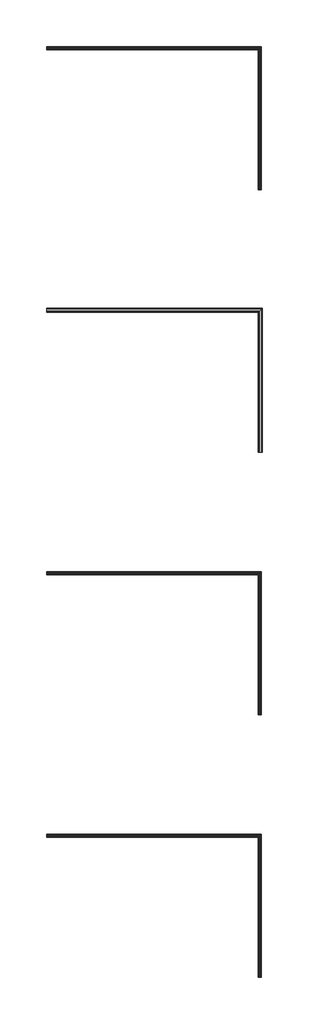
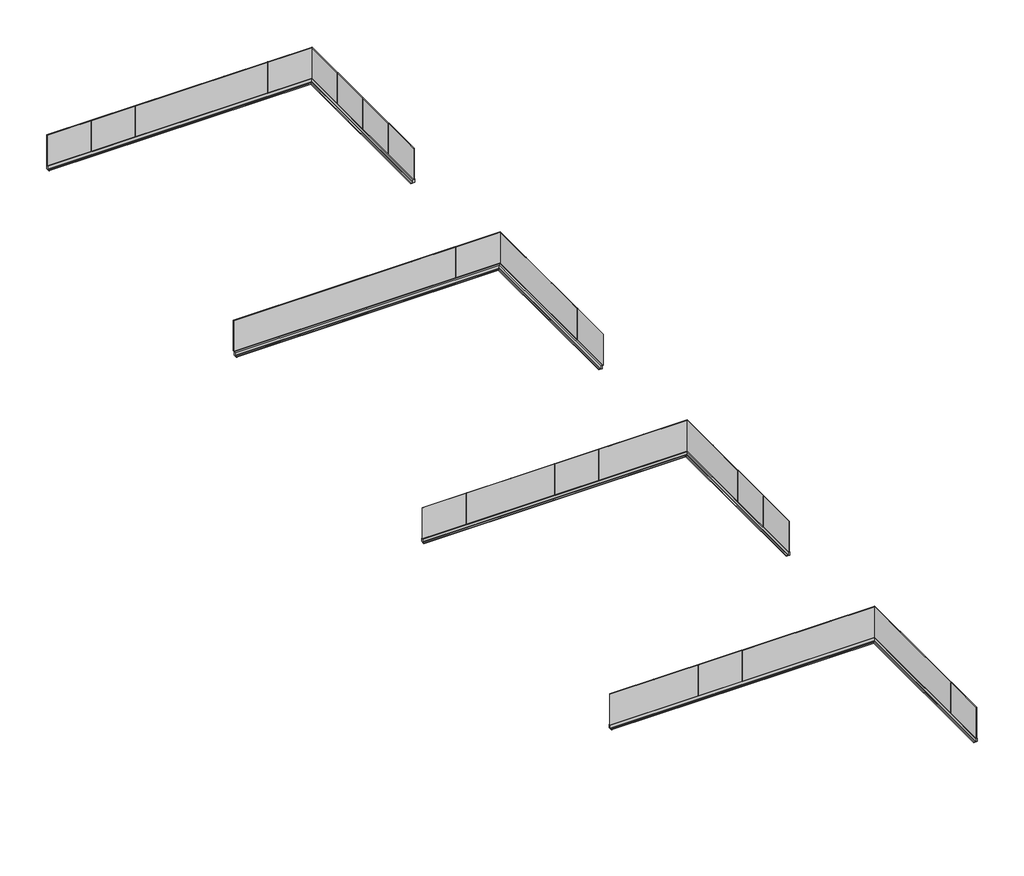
# One storey: 4 railings.
"""IFC4 building model written with IfcOpenShell, lengths in millimetres."""

from ifc_helpers import new_model, si_unit, frame, origin, origin_with_axes, place, context, project, spatial, polyline, circle_curve, ellipse_curve, outline, extrude, faceted_brep, element, save
from ifc_brep_helpers import plane_surface, cylinder_surface, revolved_surface, advanced_brep

model = new_model("IFC4")

# Units and contexts
model_context = context("Model", 3, world=origin())
ifc_project = project(units=[si_unit("LENGTHUNIT", "METRE", prefix="MILLI")], contexts=[model_context])

# Site, building, storey
site = spatial("IfcSite", under=ifc_project)
building = spatial("IfcBuilding", under=site)
storey = spatial("IfcBuildingStorey", under=building, Name="レベル 1", Elevation=0.0)

# Railings
placement = place(None, origin())
element("IfcRailing", 1, ObjectType="バラストレイド Proタイプ 床付用F型 ガラス12mm", at=placement, inside=storey, context=model_context, shape_type="SolidModel", body=[
    faceted_brep([(-7072.0241721, 2579.037995, 1100.0), (-7072.0241721, 2579.037995, 0.0), (-7072.0241721, 2564.037995, 0.0), (-7072.0241721, 2564.037995, 1100.0), (1905.4758279, 2579.037995, 1100.0), (1905.4758279, 2579.037995, 0.0), (1890.4758279, 2564.037995, 0.0), (1890.4758279, 2564.037995, 1100.0), (1905.4758279, -3398.462005, 1100.0), (1890.4758279, -3398.462005, 1100.0), (1890.4758279, -3398.462005, 0.0), (1905.4758279, -3398.462005, 0.0)], [[[0, 1, 2, 3]], [[1, 0, 4, 5]], [[2, 1, 5, 6]], [[3, 2, 6, 7]], [[0, 3, 7, 4]], [[8, 9, 10, 11]], [[5, 4, 8, 11]], [[6, 5, 11, 10]], [[7, 6, 10, 9]], [[4, 7, 9, 8]]]),
    advanced_brep(
    [(-7072.0241721, 2601.537995, -121.0), (-7072.0241721, 2474.537995, -121.0), (-7072.0241721, 2486.537995, -109.0), (-7072.0241721, 2531.537995, -109.0), (-7072.0241721, 2541.537995, -99.0), (-7072.0241721, 2541.537995, 0.0), (-7072.0241721, 2601.537995, 0.0), (1927.9758279, 2601.537995, -121.0), (1800.9758279, 2474.537995, -121.0), (1812.9758279, 2486.537995, -109.0), (1857.9758279, 2531.537995, -109.0), (1867.9758279, 2541.537995, -99.0), (1867.9758279, 2541.537995, 0.0), (1927.9758279, 2601.537995, 0.0), (1927.9758279, -3398.462005, -121.0), (1927.9758279, -3398.462005, 0.0), (1867.9758279, -3398.462005, 0.0), (1867.9758279, -3398.462005, -99.0), (1857.9758279, -3398.462005, -109.0), (1812.9758279, -3398.462005, -109.0), (1800.9758279, -3398.462005, -121.0)],
    [
        (0, 1),
        (1, 2, circle_curve(frame((-7072.0241721, 2486.537995, -121.0), z_axis=(-1.0, 0.0, 0.0), x_axis=(0.0, -1.0, 0.0)), 12.0)),
        (2, 3),
        (3, 4, circle_curve(frame((-7072.0241721, 2531.537995, -99.0), z_axis=(1.0, 0.0, 0.0), x_axis=(0.0, -1.0, 0.0)), 10.0)),
        (4, 5),
        (5, 6),
        (6, 0),
        (0, 7),
        (7, 8),
        (8, 1),
        (8, 9, ellipse_curve(frame((1812.9758279, 2486.537995, -121.0), z_axis=(-0.7071067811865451, 0.7071067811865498, 0.0), x_axis=(-0.70710678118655, -0.7071067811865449, 0.0)), 16.9705627, 12.0)),
        (9, 2),
        (9, 10),
        (10, 3),
        (10, 11, ellipse_curve(frame((1857.9758279, 2531.537995, -99.0), z_axis=(0.7071067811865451, -0.7071067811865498, 0.0), x_axis=(0.70710678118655, 0.7071067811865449, 0.0)), 14.1421356, 10.0)),
        (11, 4),
        (11, 12),
        (12, 5),
        (12, 13),
        (13, 6),
        (13, 7),
        (14, 15),
        (15, 16),
        (16, 17),
        (17, 18, circle_curve(frame((1857.9758279, -3398.462005, -99.0), z_axis=(0.0, 1.0, 0.0), x_axis=(-1.0, 0.0, 0.0)), 10.0)),
        (18, 19),
        (19, 20, circle_curve(frame((1812.9758279, -3398.462005, -121.0), z_axis=(0.0, -1.0, 0.0), x_axis=(-1.0, 0.0, 0.0)), 12.0)),
        (20, 14),
        (7, 14),
        (20, 8),
        (19, 9),
        (18, 10),
        (17, 11),
        (16, 12),
        (15, 13),
    ],
    [
        plane_surface(frame((-7072.0241721, 2601.537995, 0.0), z_axis=(-1.0, 0.0, 0.0), x_axis=(0.0, 1.0, 0.0))),
        plane_surface(frame((-7072.0241721, 2601.537995, -121.0), z_axis=(0.0, 0.0, -1.0), x_axis=(1.0, 0.0, 0.0))),
        cylinder_surface(frame((-7072.0241721, 2486.537995, -121.0), z_axis=(-1.0, 0.0, 0.0), x_axis=(0.0, -1.0, 0.0)), 12.0),
        plane_surface(frame((-7072.0241721, 2486.537995, -109.0), z_axis=(0.0, 0.0, 1.0), x_axis=(1.0, 0.0, 0.0))),
        revolved_surface(polyline([(1867.9758278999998, 2521.537995, -99.0), (-7072.0241721, 2521.537995, -99.0)]), (-7072.0241721, 2531.537995, -99.0), (1.0, 0.0, 0.0)),
        plane_surface(frame((-7072.0241721, 2541.537995, -99.0), z_axis=(0.0, -1.0, 0.0), x_axis=(1.0, 0.0, 0.0))),
        plane_surface(frame((-7072.0241721, 2541.537995, 0.0), z_axis=(0.0, 0.0, 1.0), x_axis=(1.0, 0.0, 0.0))),
        plane_surface(frame((-7072.0241721, 2601.537995, 0.0), z_axis=(0.0, 1.0, 0.0), x_axis=(1.0, 0.0, 0.0))),
        plane_surface(frame((1927.9758279, -3398.462005, 0.0), z_axis=(0.0, -1.0, 0.0), x_axis=(0.0, 0.0, -1.0))),
        plane_surface(frame((1927.9758279, 2601.537995, -121.0), z_axis=(0.0, 0.0, -1.0), x_axis=(0.0, -1.0, 0.0))),
        cylinder_surface(frame((1812.9758279, 2601.537995, -121.0), z_axis=(0.0, 1.0, 0.0), x_axis=(-1.0, 0.0, 0.0)), 12.0),
        plane_surface(frame((1812.9758279, 2486.537995, -109.0), z_axis=(0.0, 0.0, 1.0), x_axis=(0.0, -1.0, 0.0))),
        revolved_surface(polyline([(1847.9758279, -3398.462005, -99.0), (1847.9758279, 2541.537995, -99.0)]), (1857.9758279, 2601.537995, -99.0), (0.0, -1.0, 0.0)),
        plane_surface(frame((1867.9758279, 2541.537995, -99.0), z_axis=(-1.0, 0.0, 0.0), x_axis=(0.0, -1.0, 0.0))),
        plane_surface(frame((1867.9758279, 2541.537995, 0.0), z_axis=(0.0, 0.0, 1.0), x_axis=(0.0, -1.0, 0.0))),
        plane_surface(frame((1927.9758279, 2601.537995, 0.0), z_axis=(1.0, 0.0, 0.0), x_axis=(0.0, -1.0, 0.0))),
    ],
    [
        (0, [[1, 2, 3, 4, 5, 6, 7]]),
        (1, [[-1, 8, 9, 10]]),
        (2, [[-2, -10, 11, 12]]),
        (3, [[-3, -12, 13, 14]]),
        (4, [[-4, -14, 15, 16]]),
        (5, [[-5, -16, 17, 18]]),
        (6, [[-6, -18, 19, 20]]),
        (7, [[-7, -20, 21, -8]]),
        (8, [[22, 23, 24, 25, 26, 27, 28]]),
        (9, [[-9, 29, -28, 30]]),
        (10, [[-11, -30, -27, 31]]),
        (11, [[-13, -31, -26, 32]]),
        (12, [[-15, -32, -25, 33]]),
        (13, [[-17, -33, -24, 34]]),
        (14, [[-19, -34, -23, 35]]),
        (15, [[-21, -35, -22, -29]]),
    ],
),
    extrude(outline(polyline([(1903.9758279, -1895.962005), (1903.9758279, -1915.962005), (1891.9758279, -1915.962005), (1891.9758279, -1895.962005), (1903.9758279, -1895.962005)])), origin_with_axes(), (0.0, 0.0, 1.0), 1100.0),
    extrude(outline(polyline([(1903.9758279, -403.462005), (1903.9758279, -423.462005), (1891.9758279, -423.462005), (1891.9758279, -403.462005), (1903.9758279, -403.462005)])), origin_with_axes(), (0.0, 0.0, 1.0), 1100.0),
    extrude(outline(polyline([(1903.9758279, 1089.037995), (1903.9758279, 1069.037995), (1891.9758279, 1069.037995), (1891.9758279, 1089.037995), (1903.9758279, 1089.037995)])), origin_with_axes(), (0.0, 0.0, 1.0), 1100.0),
    extrude(outline(polyline([(392.9758279, 2577.537995), (412.9758279, 2577.537995), (412.9758279, 2565.537995), (392.9758279, 2565.537995), (392.9758279, 2577.537995)])), origin_with_axes(), (0.0, 0.0, 1.0), 1100.0),
    extrude(outline(polyline([(-1102.0241721, 2577.537995), (-1082.0241721, 2577.537995), (-1082.0241721, 2565.537995), (-1102.0241721, 2565.537995), (-1102.0241721, 2577.537995)])), origin_with_axes(), (0.0, 0.0, 1.0), 1100.0),
    extrude(outline(polyline([(-2597.0241721, 2577.537995), (-2577.0241721, 2577.537995), (-2577.0241721, 2565.537995), (-2597.0241721, 2565.537995), (-2597.0241721, 2577.537995)])), origin_with_axes(), (0.0, 0.0, 1.0), 1100.0),
    extrude(outline(polyline([(-4092.0241721, 2577.537995), (-4072.0241721, 2577.537995), (-4072.0241721, 2565.537995), (-4092.0241721, 2565.537995), (-4092.0241721, 2577.537995)])), origin_with_axes(), (0.0, 0.0, 1.0), 1100.0),
    extrude(outline(polyline([(-5587.0241721, 2577.537995), (-5567.0241721, 2577.537995), (-5567.0241721, 2565.537995), (-5587.0241721, 2565.537995), (-5587.0241721, 2577.537995)])), origin_with_axes(), (0.0, 0.0, 1.0), 1100.0),
    extrude(outline(polyline([(1891.9758279, 2577.537995), (1903.9758279, 2577.537995), (1903.9758279, 2565.537995), (1891.9758279, 2565.537995), (1891.9758279, 2577.537995)])), origin_with_axes(), (0.0, 0.0, 1.0), 1100.0),
])
element("IfcRailing", 2, ObjectType="バラストレイド Proタイプ 床付用F型 ガラス15mm", at=placement, inside=storey, context=model_context, shape_type="SolidModel", body=[
    faceted_brep([(-7072.0241721, -8358.562005, 1100.0), (-7072.0241721, -8358.562005, 0.0), (-7072.0241721, -8373.562005, 0.0), (-7072.0241721, -8373.562005, 1100.0), (1967.8758279, -8358.562005, 1100.0), (1967.8758279, -8358.562005, 0.0), (1952.8758279, -8373.562005, 0.0), (1952.8758279, -8373.562005, 1100.0), (1967.8758279, -14398.462005, 1100.0), (1952.8758279, -14398.462005, 1100.0), (1952.8758279, -14398.462005, 0.0), (1967.8758279, -14398.462005, 0.0)], [[[0, 1, 2, 3]], [[1, 0, 4, 5]], [[2, 1, 5, 6]], [[3, 2, 6, 7]], [[0, 3, 7, 4]], [[8, 9, 10, 11]], [[5, 4, 8, 11]], [[6, 5, 11, 10]], [[7, 6, 10, 9]], [[4, 7, 9, 8]]]),
    advanced_brep(
    [(-7072.0241721, -8398.462005, -121.0), (-7072.0241721, -8525.462005, -121.0), (-7072.0241721, -8513.462005, -109.0), (-7072.0241721, -8468.462005, -109.0), (-7072.0241721, -8458.462005, -99.0), (-7072.0241721, -8458.462005, 0.0), (-7072.0241721, -8398.462005, 0.0), (1927.9758279, -8398.462005, -121.0), (1800.9758279, -8525.462005, -121.0), (1812.9758279, -8513.462005, -109.0), (1857.9758279, -8468.462005, -109.0), (1867.9758279, -8458.462005, -99.0), (1867.9758279, -8458.462005, 0.0), (1927.9758279, -8398.462005, 0.0), (1927.9758279, -14398.462005, -121.0), (1927.9758279, -14398.462005, 0.0), (1867.9758279, -14398.462005, 0.0), (1867.9758279, -14398.462005, -99.0), (1857.9758279, -14398.462005, -109.0), (1812.9758279, -14398.462005, -109.0), (1800.9758279, -14398.462005, -121.0)],
    [
        (0, 1),
        (1, 2, circle_curve(frame((-7072.0241721, -8513.462005, -121.0), z_axis=(-1.0, 0.0, 0.0), x_axis=(0.0, -1.0, 0.0)), 12.0)),
        (2, 3),
        (3, 4, circle_curve(frame((-7072.0241721, -8468.462005, -99.0), z_axis=(1.0, 0.0, 0.0), x_axis=(0.0, -1.0, 0.0)), 10.0)),
        (4, 5),
        (5, 6),
        (6, 0),
        (0, 7),
        (7, 8),
        (8, 1),
        (8, 9, ellipse_curve(frame((1812.9758279, -8513.462005, -121.0), z_axis=(-0.7071067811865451, 0.7071067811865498, 0.0), x_axis=(-0.70710678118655, -0.7071067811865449, 0.0)), 16.9705627, 12.0)),
        (9, 2),
        (9, 10),
        (10, 3),
        (10, 11, ellipse_curve(frame((1857.9758279, -8468.462005, -99.0), z_axis=(0.7071067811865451, -0.7071067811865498, 0.0), x_axis=(0.70710678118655, 0.7071067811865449, 0.0)), 14.1421356, 10.0)),
        (11, 4),
        (11, 12),
        (12, 5),
        (12, 13),
        (13, 6),
        (13, 7),
        (14, 15),
        (15, 16),
        (16, 17),
        (17, 18, circle_curve(frame((1857.9758279, -14398.462005, -99.0), z_axis=(0.0, 1.0, 0.0), x_axis=(-1.0, 0.0, 0.0)), 10.0)),
        (18, 19),
        (19, 20, circle_curve(frame((1812.9758279, -14398.462005, -121.0), z_axis=(0.0, -1.0, 0.0), x_axis=(-1.0, 0.0, 0.0)), 12.0)),
        (20, 14),
        (7, 14),
        (20, 8),
        (19, 9),
        (18, 10),
        (17, 11),
        (16, 12),
        (15, 13),
    ],
    [
        plane_surface(frame((-7072.0241721, -8398.462005, 0.0), z_axis=(-1.0, 0.0, 0.0), x_axis=(0.0, 1.0, 0.0))),
        plane_surface(frame((-7072.0241721, -8398.462005, -121.0), z_axis=(0.0, 0.0, -1.0), x_axis=(1.0, 0.0, 0.0))),
        cylinder_surface(frame((-7072.0241721, -8513.462005, -121.0), z_axis=(-1.0, 0.0, 0.0), x_axis=(0.0, -1.0, 0.0)), 12.0),
        plane_surface(frame((-7072.0241721, -8513.462005, -109.0), z_axis=(0.0, 0.0, 1.0), x_axis=(1.0, 0.0, 0.0))),
        revolved_surface(polyline([(1867.9758278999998, -8478.462005, -99.0), (-7072.0241721, -8478.462005, -99.0)]), (-7072.0241721, -8468.462005, -99.0), (1.0, 0.0, 0.0)),
        plane_surface(frame((-7072.0241721, -8458.462005, -99.0), z_axis=(0.0, -1.0, 0.0), x_axis=(1.0, 0.0, 0.0))),
        plane_surface(frame((-7072.0241721, -8458.462005, 0.0), z_axis=(0.0, 0.0, 1.0), x_axis=(1.0, 0.0, 0.0))),
        plane_surface(frame((-7072.0241721, -8398.462005, 0.0), z_axis=(0.0, 1.0, 0.0), x_axis=(1.0, 0.0, 0.0))),
        plane_surface(frame((1927.9758279, -14398.462005, 0.0), z_axis=(0.0, -1.0, 0.0), x_axis=(0.0, 0.0, -1.0))),
        plane_surface(frame((1927.9758279, -8398.462005, -121.0), z_axis=(0.0, 0.0, -1.0), x_axis=(0.0, -1.0, 0.0))),
        cylinder_surface(frame((1812.9758279, -8398.462005, -121.0), z_axis=(0.0, 1.0, 0.0), x_axis=(-1.0, 0.0, 0.0)), 12.0),
        plane_surface(frame((1812.9758279, -8513.462005, -109.0), z_axis=(0.0, 0.0, 1.0), x_axis=(0.0, -1.0, 0.0))),
        revolved_surface(polyline([(1847.9758279, -14398.462005, -99.0), (1847.9758279, -8458.462005, -99.0)]), (1857.9758279, -8398.462005, -99.0), (0.0, -1.0, 0.0)),
        plane_surface(frame((1867.9758279, -8458.462005, -99.0), z_axis=(-1.0, 0.0, 0.0), x_axis=(0.0, -1.0, 0.0))),
        plane_surface(frame((1867.9758279, -8458.462005, 0.0), z_axis=(0.0, 0.0, 1.0), x_axis=(0.0, -1.0, 0.0))),
        plane_surface(frame((1927.9758279, -8398.462005, 0.0), z_axis=(1.0, 0.0, 0.0), x_axis=(0.0, -1.0, 0.0))),
    ],
    [
        (0, [[1, 2, 3, 4, 5, 6, 7]]),
        (1, [[-1, 8, 9, 10]]),
        (2, [[-2, -10, 11, 12]]),
        (3, [[-3, -12, 13, 14]]),
        (4, [[-4, -14, 15, 16]]),
        (5, [[-5, -16, 17, 18]]),
        (6, [[-6, -18, 19, 20]]),
        (7, [[-7, -20, 21, -8]]),
        (8, [[22, 23, 24, 25, 26, 27, 28]]),
        (9, [[-9, 29, -28, 30]]),
        (10, [[-11, -30, -27, 31]]),
        (11, [[-13, -31, -26, 32]]),
        (12, [[-15, -32, -25, 33]]),
        (13, [[-17, -33, -24, 34]]),
        (14, [[-19, -34, -23, 35]]),
        (15, [[-21, -35, -22, -29]]),
    ],
),
    extrude(outline(polyline([(1967.8758279, -12880.362005), (1967.8758279, -12900.362005), (1952.8758279, -12900.362005), (1952.8758279, -12880.362005), (1967.8758279, -12880.362005)])), origin_with_axes(), (0.0, 0.0, 1.0), 1100.0),
    extrude(outline(polyline([(1967.8758279, -11372.262005), (1967.8758279, -11392.262005), (1952.8758279, -11392.262005), (1952.8758279, -11372.262005), (1967.8758279, -11372.262005)])), origin_with_axes(), (0.0, 0.0, 1.0), 1100.0),
    extrude(outline(polyline([(1967.8758279, -9864.162005), (1967.8758279, -9884.162005), (1952.8758279, -9884.162005), (1952.8758279, -9864.162005), (1967.8758279, -9864.162005)])), origin_with_axes(), (0.0, 0.0, 1.0), 1100.0),
    extrude(outline(polyline([(444.9758279, -8358.562005), (464.9758279, -8358.562005), (464.9758279, -8373.562005), (444.9758279, -8373.562005), (444.9758279, -8358.562005)])), origin_with_axes(), (0.0, 0.0, 1.0), 1100.0),
    extrude(outline(polyline([(-1060.4241721, -8358.562005), (-1040.4241721, -8358.562005), (-1040.4241721, -8373.562005), (-1060.4241721, -8373.562005), (-1060.4241721, -8358.562005)])), origin_with_axes(), (0.0, 0.0, 1.0), 1100.0),
    extrude(outline(polyline([(-2565.8241721, -8358.562005), (-2545.8241721, -8358.562005), (-2545.8241721, -8373.562005), (-2565.8241721, -8373.562005), (-2565.8241721, -8358.562005)])), origin_with_axes(), (0.0, 0.0, 1.0), 1100.0),
    extrude(outline(polyline([(-4071.2241721, -8358.562005), (-4051.2241721, -8358.562005), (-4051.2241721, -8373.562005), (-4071.2241721, -8373.562005), (-4071.2241721, -8358.562005)])), origin_with_axes(), (0.0, 0.0, 1.0), 1100.0),
    extrude(outline(polyline([(-5576.6241721, -8358.562005), (-5556.6241721, -8358.562005), (-5556.6241721, -8373.562005), (-5576.6241721, -8373.562005), (-5576.6241721, -8358.562005)])), origin_with_axes(), (0.0, 0.0, 1.0), 1100.0),
    extrude(outline(polyline([(1952.8758279, -8358.562005), (1967.8758279, -8358.562005), (1967.8758279, -8373.562005), (1952.8758279, -8373.562005), (1952.8758279, -8358.562005)])), origin_with_axes(), (0.0, 0.0, 1.0), 1100.0),
])
element("IfcRailing", 3, ObjectType="バラストレイド Proタイプ 床付用F型 ガラス 8+8mm", at=placement, inside=storey, context=model_context, shape_type="SolidModel", body=[
    faceted_brep([(-7072.0241721, -19419.712005, 1100.0), (-7072.0241721, -19419.712005, 0.0), (-7072.0241721, -19437.212005, 0.0), (-7072.0241721, -19437.212005, 1100.0), (1906.7258279, -19419.712005, 1100.0), (1906.7258279, -19419.712005, 0.0), (1889.2258279, -19437.212005, 0.0), (1889.2258279, -19437.212005, 1100.0), (1906.7258279, -25398.462005, 1100.0), (1889.2258279, -25398.462005, 1100.0), (1889.2258279, -25398.462005, 0.0), (1906.7258279, -25398.462005, 0.0)], [[[0, 1, 2, 3]], [[1, 0, 4, 5]], [[2, 1, 5, 6]], [[3, 2, 6, 7]], [[0, 3, 7, 4]], [[8, 9, 10, 11]], [[5, 4, 8, 11]], [[6, 5, 11, 10]], [[7, 6, 10, 9]], [[4, 7, 9, 8]]]),
    advanced_brep(
    [(-7072.0241721, -19398.462005, -121.0), (-7072.0241721, -19525.462005, -121.0), (-7072.0241721, -19513.462005, -109.0), (-7072.0241721, -19468.462005, -109.0), (-7072.0241721, -19458.462005, -99.0), (-7072.0241721, -19458.462005, 0.0), (-7072.0241721, -19398.462005, 0.0), (1927.9758279, -19398.462005, -121.0), (1800.9758279, -19525.462005, -121.0), (1812.9758279, -19513.462005, -109.0), (1857.9758279, -19468.462005, -109.0), (1867.9758279, -19458.462005, -99.0), (1867.9758279, -19458.462005, 0.0), (1927.9758279, -19398.462005, 0.0), (1927.9758279, -25398.462005, -121.0), (1927.9758279, -25398.462005, 0.0), (1867.9758279, -25398.462005, 0.0), (1867.9758279, -25398.462005, -99.0), (1857.9758279, -25398.462005, -109.0), (1812.9758279, -25398.462005, -109.0), (1800.9758279, -25398.462005, -121.0)],
    [
        (0, 1),
        (1, 2, circle_curve(frame((-7072.0241721, -19513.462005, -121.0), z_axis=(-1.0, 0.0, 0.0), x_axis=(0.0, -1.0, 0.0)), 12.0)),
        (2, 3),
        (3, 4, circle_curve(frame((-7072.0241721, -19468.462005, -99.0), z_axis=(1.0, 0.0, 0.0), x_axis=(0.0, -1.0, 0.0)), 10.0)),
        (4, 5),
        (5, 6),
        (6, 0),
        (0, 7),
        (7, 8),
        (8, 1),
        (8, 9, ellipse_curve(frame((1812.9758279, -19513.462005, -121.0), z_axis=(-0.7071067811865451, 0.7071067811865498, 0.0), x_axis=(-0.70710678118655, -0.7071067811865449, 0.0)), 16.9705627, 12.0)),
        (9, 2),
        (9, 10),
        (10, 3),
        (10, 11, ellipse_curve(frame((1857.9758279, -19468.462005, -99.0), z_axis=(0.7071067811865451, -0.7071067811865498, 0.0), x_axis=(0.70710678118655, 0.7071067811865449, 0.0)), 14.1421356, 10.0)),
        (11, 4),
        (11, 12),
        (12, 5),
        (12, 13),
        (13, 6),
        (13, 7),
        (14, 15),
        (15, 16),
        (16, 17),
        (17, 18, circle_curve(frame((1857.9758279, -25398.462005, -99.0), z_axis=(0.0, 1.0, 0.0), x_axis=(-1.0, 0.0, 0.0)), 10.0)),
        (18, 19),
        (19, 20, circle_curve(frame((1812.9758279, -25398.462005, -121.0), z_axis=(0.0, -1.0, 0.0), x_axis=(-1.0, 0.0, 0.0)), 12.0)),
        (20, 14),
        (7, 14),
        (20, 8),
        (19, 9),
        (18, 10),
        (17, 11),
        (16, 12),
        (15, 13),
    ],
    [
        plane_surface(frame((-7072.0241721, -19398.462005, 0.0), z_axis=(-1.0, 0.0, 0.0), x_axis=(0.0, 1.0, 0.0))),
        plane_surface(frame((-7072.0241721, -19398.462005, -121.0), z_axis=(0.0, 0.0, -1.0), x_axis=(1.0, 0.0, 0.0))),
        cylinder_surface(frame((-7072.0241721, -19513.462005, -121.0), z_axis=(-1.0, 0.0, 0.0), x_axis=(0.0, -1.0, 0.0)), 12.0),
        plane_surface(frame((-7072.0241721, -19513.462005, -109.0), z_axis=(0.0, 0.0, 1.0), x_axis=(1.0, 0.0, 0.0))),
        revolved_surface(polyline([(1867.9758278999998, -19478.462005, -99.0), (-7072.0241721, -19478.462005, -99.0)]), (-7072.0241721, -19468.462005, -99.0), (1.0, 0.0, 0.0)),
        plane_surface(frame((-7072.0241721, -19458.462005, -99.0), z_axis=(0.0, -1.0, 0.0), x_axis=(1.0, 0.0, 0.0))),
        plane_surface(frame((-7072.0241721, -19458.462005, 0.0), z_axis=(0.0, 0.0, 1.0), x_axis=(1.0, 0.0, 0.0))),
        plane_surface(frame((-7072.0241721, -19398.462005, 0.0), z_axis=(0.0, 1.0, 0.0), x_axis=(1.0, 0.0, 0.0))),
        plane_surface(frame((1927.9758279, -25398.462005, 0.0), z_axis=(0.0, -1.0, 0.0), x_axis=(0.0, 0.0, -1.0))),
        plane_surface(frame((1927.9758279, -19398.462005, -121.0), z_axis=(0.0, 0.0, -1.0), x_axis=(0.0, -1.0, 0.0))),
        cylinder_surface(frame((1812.9758279, -19398.462005, -121.0), z_axis=(0.0, 1.0, 0.0), x_axis=(-1.0, 0.0, 0.0)), 12.0),
        plane_surface(frame((1812.9758279, -19513.462005, -109.0), z_axis=(0.0, 0.0, 1.0), x_axis=(0.0, -1.0, 0.0))),
        revolved_surface(polyline([(1847.9758279, -25398.462005, -99.0), (1847.9758279, -19458.462005, -99.0)]), (1857.9758279, -19398.462005, -99.0), (0.0, -1.0, 0.0)),
        plane_surface(frame((1867.9758279, -19458.462005, -99.0), z_axis=(-1.0, 0.0, 0.0), x_axis=(0.0, -1.0, 0.0))),
        plane_surface(frame((1867.9758279, -19458.462005, 0.0), z_axis=(0.0, 0.0, 1.0), x_axis=(0.0, -1.0, 0.0))),
        plane_surface(frame((1927.9758279, -19398.462005, 0.0), z_axis=(1.0, 0.0, 0.0), x_axis=(0.0, -1.0, 0.0))),
    ],
    [
        (0, [[1, 2, 3, 4, 5, 6, 7]]),
        (1, [[-1, 8, 9, 10]]),
        (2, [[-2, -10, 11, 12]]),
        (3, [[-3, -12, 13, 14]]),
        (4, [[-4, -14, 15, 16]]),
        (5, [[-5, -16, 17, 18]]),
        (6, [[-6, -18, 19, 20]]),
        (7, [[-7, -20, 21, -8]]),
        (8, [[22, 23, 24, 25, 26, 27, 28]]),
        (9, [[-9, 29, -28, 30]]),
        (10, [[-11, -30, -27, 31]]),
        (11, [[-13, -31, -26, 32]]),
        (12, [[-15, -32, -25, 33]]),
        (13, [[-17, -33, -24, 34]]),
        (14, [[-19, -34, -23, 35]]),
        (15, [[-21, -35, -22, -29]]),
    ],
),
    extrude(outline(polyline([(1906.7258279, -23895.962005), (1906.7258279, -23915.962005), (1889.2258279, -23915.962005), (1889.2258279, -23895.962005), (1906.7258279, -23895.962005)])), origin_with_axes(), (0.0, 0.0, 1.0), 1100.0),
    extrude(outline(polyline([(1906.7258279, -22403.462005), (1906.7258279, -22423.462005), (1889.2258279, -22423.462005), (1889.2258279, -22403.462005), (1906.7258279, -22403.462005)])), origin_with_axes(), (0.0, 0.0, 1.0), 1100.0),
    extrude(outline(polyline([(1906.7258279, -20910.962005), (1906.7258279, -20930.962005), (1889.2258279, -20930.962005), (1889.2258279, -20910.962005), (1906.7258279, -20910.962005)])), origin_with_axes(), (0.0, 0.0, 1.0), 1100.0),
    extrude(outline(polyline([(392.9758279, -19419.712005), (412.9758279, -19419.712005), (412.9758279, -19437.212005), (392.9758279, -19437.212005), (392.9758279, -19419.712005)])), origin_with_axes(), (0.0, 0.0, 1.0), 1100.0),
    extrude(outline(polyline([(-1102.0241721, -19419.712005), (-1082.0241721, -19419.712005), (-1082.0241721, -19437.212005), (-1102.0241721, -19437.212005), (-1102.0241721, -19419.712005)])), origin_with_axes(), (0.0, 0.0, 1.0), 1100.0),
    extrude(outline(polyline([(-2597.0241721, -19419.712005), (-2577.0241721, -19419.712005), (-2577.0241721, -19437.212005), (-2597.0241721, -19437.212005), (-2597.0241721, -19419.712005)])), origin_with_axes(), (0.0, 0.0, 1.0), 1100.0),
    extrude(outline(polyline([(-4092.0241721, -19419.712005), (-4072.0241721, -19419.712005), (-4072.0241721, -19437.212005), (-4092.0241721, -19437.212005), (-4092.0241721, -19419.712005)])), origin_with_axes(), (0.0, 0.0, 1.0), 1100.0),
    extrude(outline(polyline([(-5587.0241721, -19419.712005), (-5567.0241721, -19419.712005), (-5567.0241721, -19437.212005), (-5587.0241721, -19437.212005), (-5587.0241721, -19419.712005)])), origin_with_axes(), (0.0, 0.0, 1.0), 1100.0),
    extrude(outline(polyline([(1889.2258279, -19419.712005), (1906.7258279, -19419.712005), (1906.7258279, -19437.212005), (1889.2258279, -19437.212005), (1889.2258279, -19419.712005)])), origin_with_axes(), (0.0, 0.0, 1.0), 1100.0),
])
element("IfcRailing", 4, ObjectType="バラストレイド Proタイプ 床付用F型 ガラス 10+10mm", at=placement, inside=storey, context=model_context, shape_type="SolidModel", body=[
    faceted_brep([(-7072.0241721, -30417.712005, 1100.0), (-7072.0241721, -30417.712005, 0.0), (-7072.0241721, -30439.212005, 0.0), (-7072.0241721, -30439.212005, 1100.0), (1908.7258279, -30417.712005, 1100.0), (1908.7258279, -30417.712005, 0.0), (1887.2258279, -30439.212005, 0.0), (1887.2258279, -30439.212005, 1100.0), (1908.7258279, -36398.462005, 1100.0), (1887.2258279, -36398.462005, 1100.0), (1887.2258279, -36398.462005, 0.0), (1908.7258279, -36398.462005, 0.0)], [[[0, 1, 2, 3]], [[1, 0, 4, 5]], [[2, 1, 5, 6]], [[3, 2, 6, 7]], [[0, 3, 7, 4]], [[8, 9, 10, 11]], [[5, 4, 8, 11]], [[6, 5, 11, 10]], [[7, 6, 10, 9]], [[4, 7, 9, 8]]]),
    advanced_brep(
    [(-7072.0241721, -30398.462005, -121.0), (-7072.0241721, -30525.462005, -121.0), (-7072.0241721, -30513.462005, -109.0), (-7072.0241721, -30468.462005, -109.0), (-7072.0241721, -30458.462005, -99.0), (-7072.0241721, -30458.462005, 0.0), (-7072.0241721, -30398.462005, 0.0), (1927.9758279, -30398.462005, -121.0), (1800.9758279, -30525.462005, -121.0), (1812.9758279, -30513.462005, -109.0), (1857.9758279, -30468.462005, -109.0), (1867.9758279, -30458.462005, -99.0), (1867.9758279, -30458.462005, 0.0), (1927.9758279, -30398.462005, 0.0), (1927.9758279, -36398.462005, -121.0), (1927.9758279, -36398.462005, 0.0), (1867.9758279, -36398.462005, 0.0), (1867.9758279, -36398.462005, -99.0), (1857.9758279, -36398.462005, -109.0), (1812.9758279, -36398.462005, -109.0), (1800.9758279, -36398.462005, -121.0)],
    [
        (0, 1),
        (1, 2, circle_curve(frame((-7072.0241721, -30513.462005, -121.0), z_axis=(-1.0, 0.0, 0.0), x_axis=(0.0, -1.0, 0.0)), 12.0)),
        (2, 3),
        (3, 4, circle_curve(frame((-7072.0241721, -30468.462005, -99.0), z_axis=(1.0, 0.0, 0.0), x_axis=(0.0, -1.0, 0.0)), 10.0)),
        (4, 5),
        (5, 6),
        (6, 0),
        (0, 7),
        (7, 8),
        (8, 1),
        (8, 9, ellipse_curve(frame((1812.9758279, -30513.462005, -121.0), z_axis=(-0.7071067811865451, 0.7071067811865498, 0.0), x_axis=(-0.70710678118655, -0.7071067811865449, 0.0)), 16.9705627, 12.0)),
        (9, 2),
        (9, 10),
        (10, 3),
        (10, 11, ellipse_curve(frame((1857.9758279, -30468.462005, -99.0), z_axis=(0.7071067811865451, -0.7071067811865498, 0.0), x_axis=(0.70710678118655, 0.7071067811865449, 0.0)), 14.1421356, 10.0)),
        (11, 4),
        (11, 12),
        (12, 5),
        (12, 13),
        (13, 6),
        (13, 7),
        (14, 15),
        (15, 16),
        (16, 17),
        (17, 18, circle_curve(frame((1857.9758279, -36398.462005, -99.0), z_axis=(0.0, 1.0, 0.0), x_axis=(-1.0, 0.0, 0.0)), 10.0)),
        (18, 19),
        (19, 20, circle_curve(frame((1812.9758279, -36398.462005, -121.0), z_axis=(0.0, -1.0, 0.0), x_axis=(-1.0, 0.0, 0.0)), 12.0)),
        (20, 14),
        (7, 14),
        (20, 8),
        (19, 9),
        (18, 10),
        (17, 11),
        (16, 12),
        (15, 13),
    ],
    [
        plane_surface(frame((-7072.0241721, -30398.462005, 0.0), z_axis=(-1.0, 0.0, 0.0), x_axis=(0.0, 1.0, 0.0))),
        plane_surface(frame((-7072.0241721, -30398.462005, -121.0), z_axis=(0.0, 0.0, -1.0), x_axis=(1.0, 0.0, 0.0))),
        cylinder_surface(frame((-7072.0241721, -30513.462005, -121.0), z_axis=(-1.0, 0.0, 0.0), x_axis=(0.0, -1.0, 0.0)), 12.0),
        plane_surface(frame((-7072.0241721, -30513.462005, -109.0), z_axis=(0.0, 0.0, 1.0), x_axis=(1.0, 0.0, 0.0))),
        revolved_surface(polyline([(1867.9758278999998, -30478.462005, -99.0), (-7072.0241721, -30478.462005, -99.0)]), (-7072.0241721, -30468.462005, -99.0), (1.0, 0.0, 0.0)),
        plane_surface(frame((-7072.0241721, -30458.462005, -99.0), z_axis=(0.0, -1.0, 0.0), x_axis=(1.0, 0.0, 0.0))),
        plane_surface(frame((-7072.0241721, -30458.462005, 0.0), z_axis=(0.0, 0.0, 1.0), x_axis=(1.0, 0.0, 0.0))),
        plane_surface(frame((-7072.0241721, -30398.462005, 0.0), z_axis=(0.0, 1.0, 0.0), x_axis=(1.0, 0.0, 0.0))),
        plane_surface(frame((1927.9758279, -36398.462005, 0.0), z_axis=(0.0, -1.0, 0.0), x_axis=(0.0, 0.0, -1.0))),
        plane_surface(frame((1927.9758279, -30398.462005, -121.0), z_axis=(0.0, 0.0, -1.0), x_axis=(0.0, -1.0, 0.0))),
        cylinder_surface(frame((1812.9758279, -30398.462005, -121.0), z_axis=(0.0, 1.0, 0.0), x_axis=(-1.0, 0.0, 0.0)), 12.0),
        plane_surface(frame((1812.9758279, -30513.462005, -109.0), z_axis=(0.0, 0.0, 1.0), x_axis=(0.0, -1.0, 0.0))),
        revolved_surface(polyline([(1847.9758279, -36398.462005, -99.0), (1847.9758279, -30458.462005, -99.0)]), (1857.9758279, -30398.462005, -99.0), (0.0, -1.0, 0.0)),
        plane_surface(frame((1867.9758279, -30458.462005, -99.0), z_axis=(-1.0, 0.0, 0.0), x_axis=(0.0, -1.0, 0.0))),
        plane_surface(frame((1867.9758279, -30458.462005, 0.0), z_axis=(0.0, 0.0, 1.0), x_axis=(0.0, -1.0, 0.0))),
        plane_surface(frame((1927.9758279, -30398.462005, 0.0), z_axis=(1.0, 0.0, 0.0), x_axis=(0.0, -1.0, 0.0))),
    ],
    [
        (0, [[1, 2, 3, 4, 5, 6, 7]]),
        (1, [[-1, 8, 9, 10]]),
        (2, [[-2, -10, 11, 12]]),
        (3, [[-3, -12, 13, 14]]),
        (4, [[-4, -14, 15, 16]]),
        (5, [[-5, -16, 17, 18]]),
        (6, [[-6, -18, 19, 20]]),
        (7, [[-7, -20, 21, -8]]),
        (8, [[22, 23, 24, 25, 26, 27, 28]]),
        (9, [[-9, 29, -28, 30]]),
        (10, [[-11, -30, -27, 31]]),
        (11, [[-13, -31, -26, 32]]),
        (12, [[-15, -32, -25, 33]]),
        (13, [[-17, -33, -24, 34]]),
        (14, [[-19, -34, -23, 35]]),
        (15, [[-21, -35, -22, -29]]),
    ],
),
    extrude(outline(polyline([(1908.7258279, -34895.962005), (1908.7258279, -34915.962005), (1887.2258279, -34915.962005), (1887.2258279, -34895.962005), (1908.7258279, -34895.962005)])), origin_with_axes(), (0.0, 0.0, 1.0), 1100.0),
    extrude(outline(polyline([(1908.7258279, -33403.462005), (1908.7258279, -33423.462005), (1887.2258279, -33423.462005), (1887.2258279, -33403.462005), (1908.7258279, -33403.462005)])), origin_with_axes(), (0.0, 0.0, 1.0), 1100.0),
    extrude(outline(polyline([(1908.7258279, -31910.962005), (1908.7258279, -31930.962005), (1887.2258279, -31930.962005), (1887.2258279, -31910.962005), (1908.7258279, -31910.962005)])), origin_with_axes(), (0.0, 0.0, 1.0), 1100.0),
    extrude(outline(polyline([(392.9758279, -30417.712005), (412.9758279, -30417.712005), (412.9758279, -30439.212005), (392.9758279, -30439.212005), (392.9758279, -30417.712005)])), origin_with_axes(), (0.0, 0.0, 1.0), 1100.0),
    extrude(outline(polyline([(-1102.0241721, -30417.712005), (-1082.0241721, -30417.712005), (-1082.0241721, -30439.212005), (-1102.0241721, -30439.212005), (-1102.0241721, -30417.712005)])), origin_with_axes(), (0.0, 0.0, 1.0), 1100.0),
    extrude(outline(polyline([(-2597.0241721, -30417.712005), (-2577.0241721, -30417.712005), (-2577.0241721, -30439.212005), (-2597.0241721, -30439.212005), (-2597.0241721, -30417.712005)])), origin_with_axes(), (0.0, 0.0, 1.0), 1100.0),
    extrude(outline(polyline([(-4092.0241721, -30417.712005), (-4072.0241721, -30417.712005), (-4072.0241721, -30439.212005), (-4092.0241721, -30439.212005), (-4092.0241721, -30417.712005)])), origin_with_axes(), (0.0, 0.0, 1.0), 1100.0),
    extrude(outline(polyline([(-5587.0241721, -30417.712005), (-5567.0241721, -30417.712005), (-5567.0241721, -30439.212005), (-5587.0241721, -30439.212005), (-5587.0241721, -30417.712005)])), origin_with_axes(), (0.0, 0.0, 1.0), 1100.0),
    extrude(outline(polyline([(1887.2258279, -30417.712005), (1908.7258279, -30417.712005), (1908.7258279, -30439.212005), (1887.2258279, -30439.212005), (1887.2258279, -30417.712005)])), origin_with_axes(), (0.0, 0.0, 1.0), 1100.0),
])

save(model, "model.ifc")
